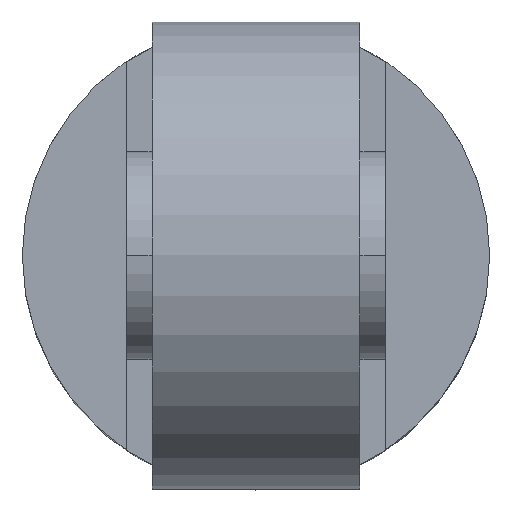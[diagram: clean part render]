
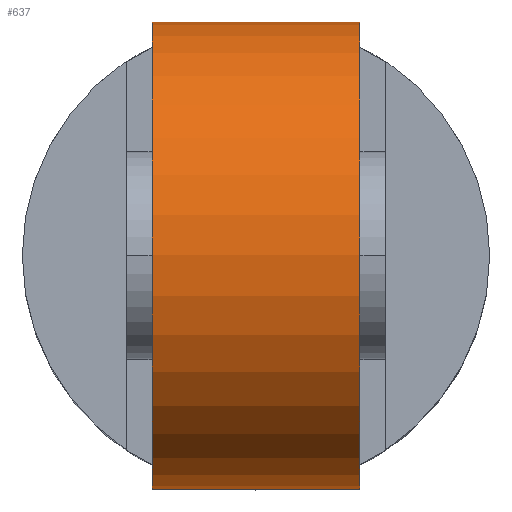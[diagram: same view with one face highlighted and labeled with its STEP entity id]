
A CAD part, top view. The second image highlights one B-rep face of the part: STEP entity #637.
In plain terms, the highlighted cylindrical face has radius 4.5 mm (diameter 9 mm), a partial arc.
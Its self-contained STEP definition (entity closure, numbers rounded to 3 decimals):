
#73 = VERTEX_POINT ( 'NONE', #295 ) ;
#124 = CARTESIAN_POINT ( 'NONE',  ( 2., 0., 0. ) ) ;
#125 = AXIS2_PLACEMENT_3D ( 'NONE', #124, #1239, #335 ) ;
#128 = VERTEX_POINT ( 'NONE', #720 ) ;
#169 = EDGE_CURVE ( 'NONE', #1007, #73, #241, .T. ) ;
#185 = DIRECTION ( 'NONE',  ( 1., 0., 0. ) ) ;
#241 = LINE ( 'NONE', #353, #337 ) ;
#295 = CARTESIAN_POINT ( 'NONE',  ( -2., 0., 4.5 ) ) ;
#335 = DIRECTION ( 'NONE',  ( 0., 0., 1. ) ) ;
#337 = VECTOR ( 'NONE', #1040, 1000. ) ;
#353 = CARTESIAN_POINT ( 'NONE',  ( 2., 0., 4.5 ) ) ;
#373 = CARTESIAN_POINT ( 'NONE',  ( 2., 0., -4.5 ) ) ;
#440 = CIRCLE ( 'NONE', #1067, 4.5 ) ;
#514 = ORIENTED_EDGE ( 'NONE', *, *, #1281, .T. ) ;
#575 = DIRECTION ( 'NONE',  ( 0., 0., -1. ) ) ;
#585 = DIRECTION ( 'NONE',  ( -1., 0., 0. ) ) ;
#627 = DIRECTION ( 'NONE',  ( 1., 0., 0. ) ) ;
#637 = ADVANCED_FACE ( 'NONE', ( #923 ), #819, .T. ) ;
#678 = CARTESIAN_POINT ( 'NONE',  ( 2., 0., 0. ) ) ;
#720 = CARTESIAN_POINT ( 'NONE',  ( -2., 0., -4.5 ) ) ;
#782 = EDGE_CURVE ( 'NONE', #791, #1007, #1265, .T. ) ;
#790 = DIRECTION ( 'NONE',  ( 0., 0., -1. ) ) ;
#791 = VERTEX_POINT ( 'NONE', #1241 ) ;
#793 = CARTESIAN_POINT ( 'NONE',  ( 2., 0., 4.5 ) ) ;
#819 = CYLINDRICAL_SURFACE ( 'NONE', #125, 4.5 ) ;
#900 = VECTOR ( 'NONE', #585, 1000. ) ;
#923 = FACE_OUTER_BOUND ( 'NONE', #1297, .T. ) ;
#1000 = LINE ( 'NONE', #373, #900 ) ;
#1007 = VERTEX_POINT ( 'NONE', #793 ) ;
#1030 = CARTESIAN_POINT ( 'NONE',  ( -2., 0., 0. ) ) ;
#1040 = DIRECTION ( 'NONE',  ( -1., 0., 0. ) ) ;
#1047 = ORIENTED_EDGE ( 'NONE', *, *, #782, .F. ) ;
#1067 = AXIS2_PLACEMENT_3D ( 'NONE', #1030, #627, #790 ) ;
#1075 = EDGE_CURVE ( 'NONE', #791, #128, #1000, .T. ) ;
#1076 = ORIENTED_EDGE ( 'NONE', *, *, #1075, .T. ) ;
#1105 = AXIS2_PLACEMENT_3D ( 'NONE', #678, #185, #575 ) ;
#1239 = DIRECTION ( 'NONE',  ( -1., 0., 0. ) ) ;
#1241 = CARTESIAN_POINT ( 'NONE',  ( 2., 0., -4.5 ) ) ;
#1265 = CIRCLE ( 'NONE', #1105, 4.5 ) ;
#1281 = EDGE_CURVE ( 'NONE', #128, #73, #440, .T. ) ;
#1292 = ORIENTED_EDGE ( 'NONE', *, *, #169, .F. ) ;
#1297 = EDGE_LOOP ( 'NONE', ( #1047, #1076, #514, #1292 ) ) ;
